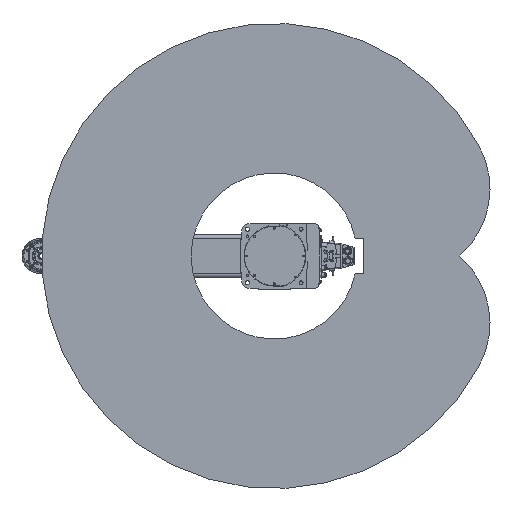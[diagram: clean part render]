
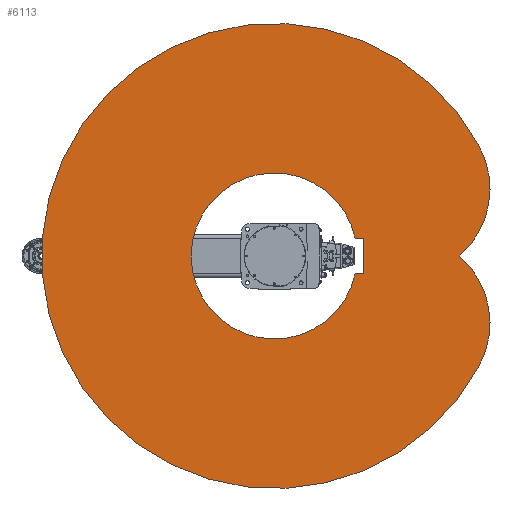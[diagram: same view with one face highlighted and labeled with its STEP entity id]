
A CAD part, front view. The second image highlights one B-rep face of the part: STEP entity #6113.
In plain terms, the highlighted planar face has unit normal (0, -1, 0).
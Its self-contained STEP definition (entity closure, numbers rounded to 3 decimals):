
#6113 = ADVANCED_FACE( '', ( #13849, #13850 ), #13851, .F. );
#13849 = FACE_OUTER_BOUND( '', #23493, .T. );
#13850 = FACE_BOUND( '', #23494, .T. );
#13851 = PLANE( '', #23495 );
#23493 = EDGE_LOOP( '', ( #40867, #40868, #40869 ) );
#23494 = EDGE_LOOP( '', ( #40870, #40871, #40872, #40873 ) );
#23495 = AXIS2_PLACEMENT_3D( '', #40874, #40875, #40876 );
#40867 = ORIENTED_EDGE( '', *, *, #56510, .F. );
#40868 = ORIENTED_EDGE( '', *, *, #54474, .F. );
#40869 = ORIENTED_EDGE( '', *, *, #54071, .F. );
#40870 = ORIENTED_EDGE( '', *, *, #56511, .T. );
#40871 = ORIENTED_EDGE( '', *, *, #55675, .T. );
#40872 = ORIENTED_EDGE( '', *, *, #54824, .T. );
#40873 = ORIENTED_EDGE( '', *, *, #56512, .T. );
#40874 = CARTESIAN_POINT( '', ( 93.894, 0., 176.59 ) );
#40875 = DIRECTION( '', ( 0., 1., 0. ) );
#40876 = DIRECTION( '', ( 0., 0., 1. ) );
#54071 = EDGE_CURVE( '', #65318, #65319, #65320, .T. );
#54474 = EDGE_CURVE( '', #65319, #65925, #65926, .T. );
#54824 = EDGE_CURVE( '', #66440, #66441, #66442, .T. );
#55675 = EDGE_CURVE( '', #67646, #66440, #67647, .T. );
#56510 = EDGE_CURVE( '', #65925, #65318, #68772, .T. );
#56511 = EDGE_CURVE( '', #68773, #67646, #68774, .T. );
#56512 = EDGE_CURVE( '', #66441, #68773, #68775, .T. );
#65318 = VERTEX_POINT( '', #82334 );
#65319 = VERTEX_POINT( '', #82335 );
#65320 = CIRCLE( '', #82336, 650. );
#65925 = VERTEX_POINT( '', #83481 );
#65926 = CIRCLE( '', #83482, 250. );
#66440 = VERTEX_POINT( '', #84379 );
#66441 = VERTEX_POINT( '', #84380 );
#66442 = LINE( '', #84381, #84382 );
#67646 = VERTEX_POINT( '', #86450 );
#67647 = LINE( '', #86451, #86452 );
#68772 = CIRCLE( '', #88696, 250. );
#68773 = VERTEX_POINT( '', #88697 );
#68774 = LINE( '', #88698, #88699 );
#68775 = CIRCLE( '', #88700, 232. );
#82334 = CARTESIAN_POINT( '', ( 305.157, 0., 573.916 ) );
#82335 = CARTESIAN_POINT( '', ( -305.157, 0., 573.916 ) );
#82336 = AXIS2_PLACEMENT_3D( '', #97874, #97875, #97876 );
#83481 = CARTESIAN_POINT( '', ( 0., 0., 518.211 ) );
#83482 = AXIS2_PLACEMENT_3D( '', #98284, #98285, #98286 );
#84379 = CARTESIAN_POINT( '', ( 50., 0., 250. ) );
#84380 = CARTESIAN_POINT( '', ( 50., 0., 226.548 ) );
#84381 = CARTESIAN_POINT( '', ( 50., 0., 250. ) );
#84382 = VECTOR( '', #98722, 1000. );
#86450 = CARTESIAN_POINT( '', ( -50., 0., 250. ) );
#86451 = CARTESIAN_POINT( '', ( -50., 0., 250. ) );
#86452 = VECTOR( '', #99689, 1000. );
#88696 = AXIS2_PLACEMENT_3D( '', #100575, #100576, #100577 );
#88697 = CARTESIAN_POINT( '', ( -50., 0., 226.548 ) );
#88698 = CARTESIAN_POINT( '', ( -50., 0., 0. ) );
#88699 = VECTOR( '', #100578, 1000. );
#88700 = AXIS2_PLACEMENT_3D( '', #100579, #100580, #100581 );
#97874 = CARTESIAN_POINT( '', ( 0., 0., 0. ) );
#97875 = DIRECTION( '', ( 0., 1., 0. ) );
#97876 = DIRECTION( '', ( 1., 0., 0. ) );
#98284 = CARTESIAN_POINT( '', ( -187.789, 0., 353.179 ) );
#98285 = DIRECTION( '', ( 0., 1., 0. ) );
#98286 = DIRECTION( '', ( 1., 0., 0. ) );
#98722 = DIRECTION( '', ( 0., 0., -1. ) );
#99689 = DIRECTION( '', ( 1., 0., 0. ) );
#100575 = CARTESIAN_POINT( '', ( 187.789, 0., 353.179 ) );
#100576 = DIRECTION( '', ( 0., 1., 0. ) );
#100577 = DIRECTION( '', ( 1., 0., 0. ) );
#100578 = DIRECTION( '', ( 0., 0., 1. ) );
#100579 = CARTESIAN_POINT( '', ( 0., 0., 0. ) );
#100580 = DIRECTION( '', ( 0., 1., 0. ) );
#100581 = DIRECTION( '', ( 1., 0., 0. ) );
